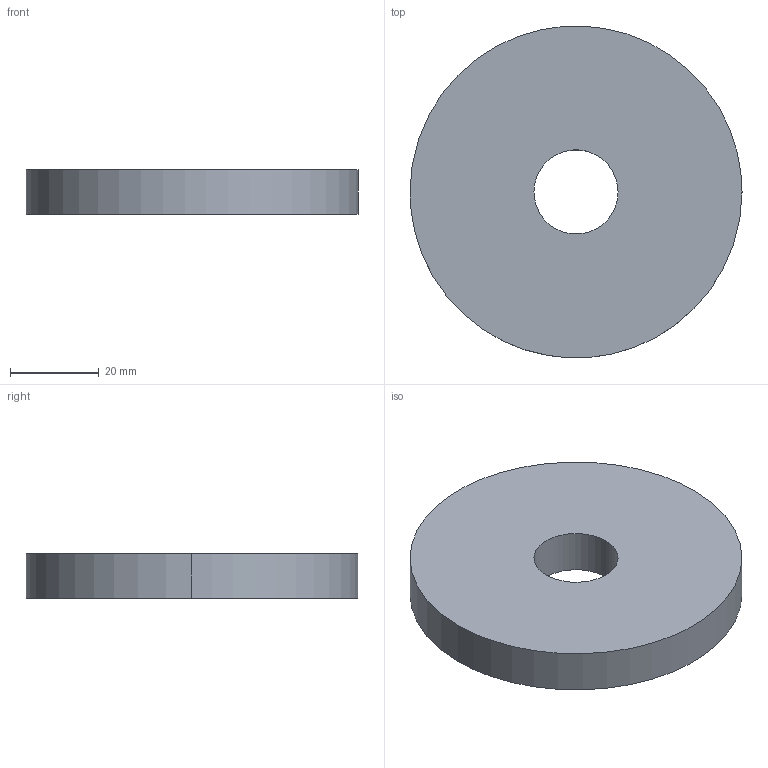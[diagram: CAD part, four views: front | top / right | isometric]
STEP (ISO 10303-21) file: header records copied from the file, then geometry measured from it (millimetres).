
FILE_DESCRIPTION(/* description */ (''),/* implementation_level */ '2;1');
FILE_NAME(/* name */ 'Material1',/* time_stamp */ '2020-06-25T00:31:01-06:00',/* author */ (''),/* organization */ (''),/* preprocessor_version */ 'ST-DEVELOPER v15',/* originating_system */ '',/* authorisation */ '');
FILE_SCHEMA (('AUTOMOTIVE_DESIGN'));
Length unit declared in the file: millimetre
Products named in the file (1): Document
Bounding box: 75 x 74.93 x 10 mm (x, y, z)
Volume: 41427.1 mm3; surface area: 11224.8 mm2
Topology: 1 solids, 1 shells, 6 faces, 12 edges, 8 vertices
Faces by surface type: bspline 4, plane 2
Entity records: 206 total; most frequent: CARTESIAN_POINT 100, ORIENTED_EDGE 24, EDGE_CURVE 12, EDGE_LOOP 8, VERTEX_POINT 8, ADVANCED_FACE 6, FACE_OUTER_BOUND 6, DIRECTION 6
